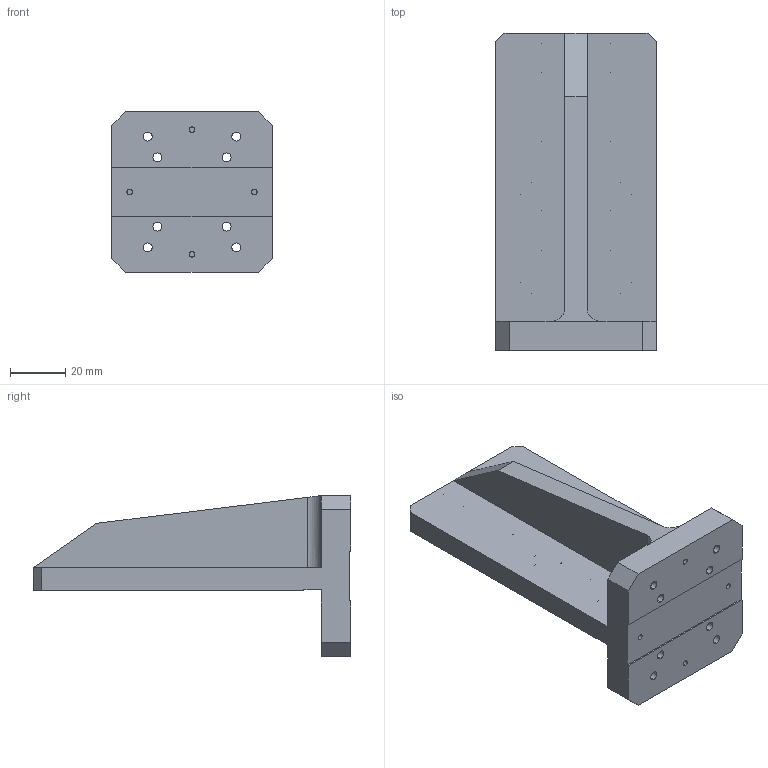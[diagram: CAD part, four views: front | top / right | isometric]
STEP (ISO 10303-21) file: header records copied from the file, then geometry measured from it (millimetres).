
FILE_DESCRIPTION (( 'STEP AP214' ), '1' );
FILE_NAME ('430613-D PPS-60, Z Bracket.STEP', '2016-10-24T18:53:46', ( '' ), ( '' ), 'SwSTEP 2.0', 'SolidWorks 2014', '' );
FILE_SCHEMA (( 'AUTOMOTIVE_DESIGN' ));
Length unit declared in the file: millimetre
Products named in the file (1): 430613-D PPS-60, Z Bracket
Bounding box: 58 x 114.5 x 58 mm (x, y, z)
Volume: 96835.7 mm3; surface area: 28711.6 mm2
Topology: 1 solids, 1 shells, 230 faces, 536 edges, 326 vertices
Faces by surface type: cylinder 126, plane 68, cone 36
Entity records: 6424 total; most frequent: DIRECTION 1210, CARTESIAN_POINT 1063, ORIENTED_EDGE 1000, EDGE_CURVE 500, AXIS2_PLACEMENT_3D 481, VERTEX_POINT 326, EDGE_LOOP 300, CIRCLE 250
